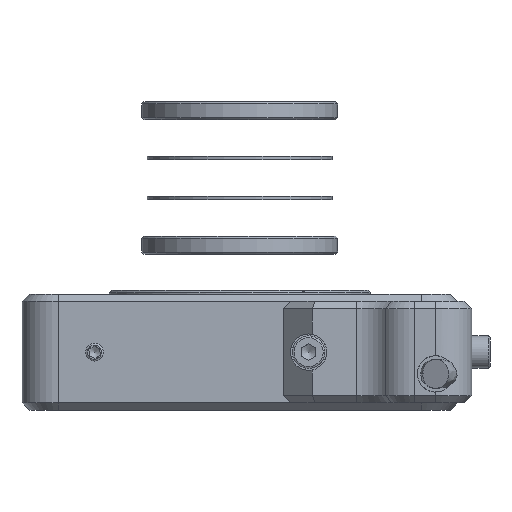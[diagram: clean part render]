
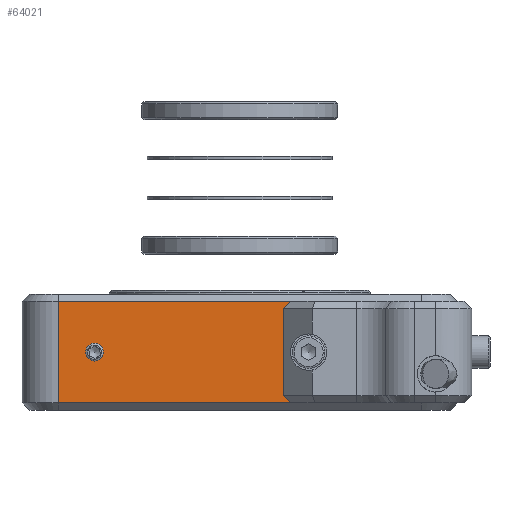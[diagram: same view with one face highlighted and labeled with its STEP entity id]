
A CAD part, left-side view. The second image highlights one B-rep face of the part: STEP entity #64021.
In plain terms, the highlighted planar face has unit normal (-1, 0, 0).
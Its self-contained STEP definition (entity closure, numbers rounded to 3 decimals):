
#4505=FACE_BOUND($,#12524,.T.);
#5465=CIRCLE($,#66914,1.23);
#8805=FACE_OUTER_BOUND($,#12523,.T.);
#12523=EDGE_LOOP($,(#55417,#55418,#55419,#55420,#55421,#55422));
#12524=EDGE_LOOP($,(#55423));
#12785=LINE($,#79237,#18098);
#12799=LINE($,#79323,#18112);
#12827=LINE($,#79458,#18140);
#17854=LINE($,#116958,#23167);
#17855=LINE($,#116960,#23168);
#17856=LINE($,#116961,#23169);
#18098=VECTOR($,#68079,14.);
#18112=VECTOR($,#68147,32.);
#18140=VECTOR($,#68301,32.);
#23167=VECTOR($,#77862,1.414);
#23168=VECTOR($,#77863,12.);
#23169=VECTOR($,#77864,1.414);
#23560=VERTEX_POINT($,#79233);
#23562=VERTEX_POINT($,#79236);
#23589=VERTEX_POINT($,#79321);
#23633=VERTEX_POINT($,#79457);
#29096=VERTEX_POINT($,#116899);
#29111=VERTEX_POINT($,#116957);
#29112=VERTEX_POINT($,#116959);
#29592=EDGE_CURVE($,#23560,#23562,#12785,.T.);
#29626=EDGE_CURVE($,#23589,#23560,#12799,.T.);
#29684=EDGE_CURVE($,#23562,#23633,#12827,.T.);
#37879=EDGE_CURVE($,#29096,#29096,#5465,.T.);
#37900=EDGE_CURVE($,#23589,#29111,#17854,.T.);
#37901=EDGE_CURVE($,#29111,#29112,#17855,.T.);
#37902=EDGE_CURVE($,#29112,#23633,#17856,.T.);
#55417=ORIENTED_EDGE($,*,*,#37900,.T.);
#55418=ORIENTED_EDGE($,*,*,#37901,.T.);
#55419=ORIENTED_EDGE($,*,*,#37902,.T.);
#55420=ORIENTED_EDGE($,*,*,#29684,.F.);
#55421=ORIENTED_EDGE($,*,*,#29592,.F.);
#55422=ORIENTED_EDGE($,*,*,#29626,.F.);
#55423=ORIENTED_EDGE($,*,*,#37879,.T.);
#57470=PLANE($,#66926);
#64021=ADVANCED_FACE($,(#8805,#4505),#57470,.T.);
#66914=AXIS2_PLACEMENT_3D($,#116900,#77824,#77825);
#66926=AXIS2_PLACEMENT_3D($,#116956,#77860,#77861);
#68079=DIRECTION($,(0.,0.,1.));
#68147=DIRECTION($,(0.,1.,0.));
#68301=DIRECTION($,(0.,-1.,0.));
#77824=DIRECTION('center_axis',(1.,0.,0.));
#77825=DIRECTION('ref_axis',(0.,-1.,0.));
#77860=DIRECTION('center_axis',(-1.,0.,0.));
#77861=DIRECTION('ref_axis',(0.,-1.,0.));
#77862=DIRECTION($,(0.,0.707,0.707));
#77863=DIRECTION($,(0.,0.,1.));
#77864=DIRECTION($,(0.,-0.707,0.707));
#79233=CARTESIAN_POINT('',(-65.012,-40.529,-38.123));
#79236=CARTESIAN_POINT('',(-65.012,-40.529,-24.123));
#79237=CARTESIAN_POINT($,(-65.012,-40.529,-39.123));
#79321=CARTESIAN_POINT('',(-65.012,-72.529,-38.123));
#79323=CARTESIAN_POINT($,(-65.012,-50.529,-38.123));
#79457=CARTESIAN_POINT('',(-65.012,-72.529,-24.123));
#79458=CARTESIAN_POINT($,(-65.012,-50.529,-24.123));
#116899=CARTESIAN_POINT('',(-65.012,-46.759,-31.123));
#116900=CARTESIAN_POINT('Origin',(-65.012,-45.529,-31.123));
#116956=CARTESIAN_POINT('Origin',(-65.012,-35.529,-39.123));
#116957=CARTESIAN_POINT('',(-65.012,-71.529,-37.123));
#116958=CARTESIAN_POINT($,(-65.012,-63.279,-28.873));
#116959=CARTESIAN_POINT('',(-65.012,-71.529,-25.123));
#116960=CARTESIAN_POINT($,(-65.012,-71.529,-38.623));
#116961=CARTESIAN_POINT($,(-65.012,-59.279,-37.373));
